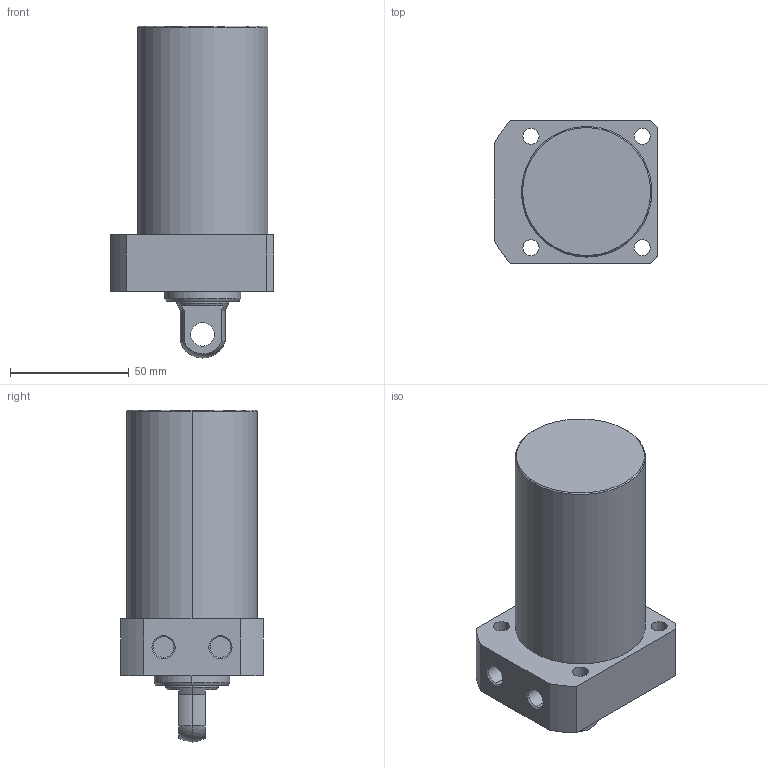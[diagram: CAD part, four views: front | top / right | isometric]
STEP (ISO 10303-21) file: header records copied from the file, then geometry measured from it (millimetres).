
FILE_DESCRIPTION (( 'STEP AP203' ), '1' );
FILE_NAME ('CLLR-055CP-075.STEP', '2019-12-19T08:31:59', ( '' ), ( '' ), 'SwSTEP 2.0', 'SolidWorks 2015', '' );
FILE_SCHEMA (( 'CONFIG_CONTROL_DESIGN' ));
Length unit declared in the file: millimetre
Products named in the file (1): CLLR-055CP-075
Bounding box: 69 x 60 x 140 mm (x, y, z)
Volume: 308322.2 mm3; surface area: 33483.2 mm2
Topology: 1 solids, 1 shells, 59 faces, 139 edges, 89 vertices
Faces by surface type: cylinder 29, plane 18, cone 10, sphere 2
Entity records: 1820 total; most frequent: DIRECTION 329, CARTESIAN_POINT 300, ORIENTED_EDGE 278, EDGE_CURVE 139, AXIS2_PLACEMENT_3D 134, VERTEX_POINT 89, EDGE_LOOP 76, CIRCLE 74
